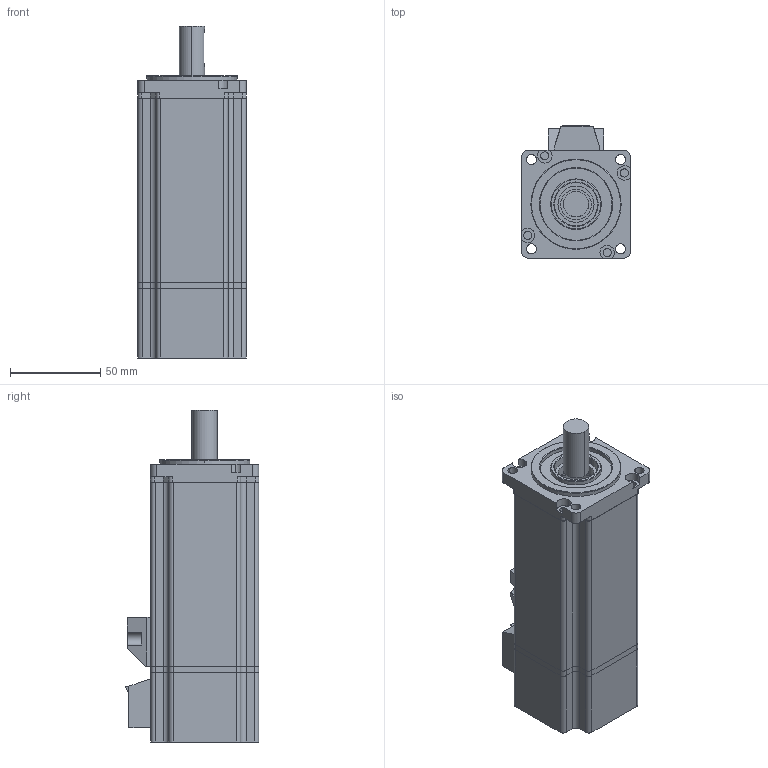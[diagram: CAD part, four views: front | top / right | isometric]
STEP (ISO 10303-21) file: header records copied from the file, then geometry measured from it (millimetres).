
FILE_DESCRIPTION (( 'STEP AP203' ), '1' );
FILE_NAME ('60-01930.STEP', '2020-03-08T12:34:44', ( '' ), ( '' ), 'SwSTEP 2.0', 'SolidWorks 2016', '' );
FILE_SCHEMA (( 'CONFIG_CONTROL_DESIGN' ));
Length unit declared in the file: millimetre
Products named in the file (8): 60-1.9N隅赽; 60綴裔; 60粣; 60-01930; 60ヶ裔; 60晤鎢ん裔啣; 萇儂裔啣_1; 60晤鎢ん
Assembly tree (7 placements, depth 2):
  60-01930
    60-1.9N隅赽
    60ヶ裔
    60綴裔
    60粣
    60晤鎢ん
    60晤鎢ん裔啣
    萇儂裔啣_1
Bounding box: 60 x 74 x 184 mm (x, y, z)
Volume: 256118.6 mm3; surface area: 88434.3 mm2
Topology: 7 solids, 7 shells, 279 faces, 728 edges, 480 vertices
Faces by surface type: cylinder 153, plane 114, torus 8, cone 2, bspline 2
Entity records: 9688 total; most frequent: DIRECTION 1618, CARTESIAN_POINT 1563, ORIENTED_EDGE 1456, EDGE_CURVE 728, AXIS2_PLACEMENT_3D 609, VERTEX_POINT 480, LINE 400, VECTOR 400
